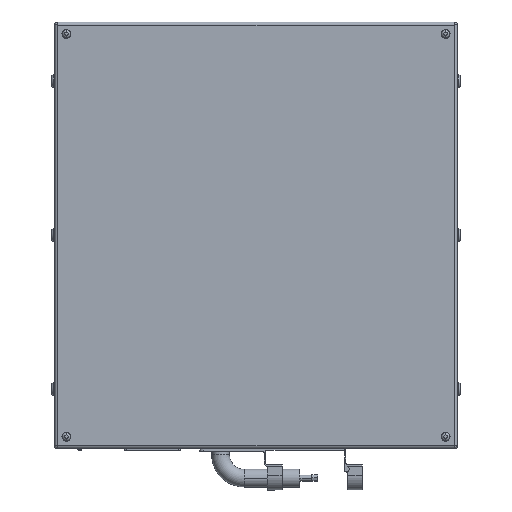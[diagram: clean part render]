
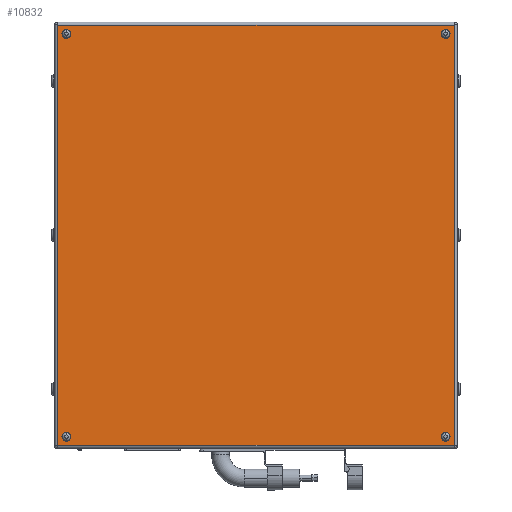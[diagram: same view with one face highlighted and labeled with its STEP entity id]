
A CAD part, front view. The second image highlights one B-rep face of the part: STEP entity #10832.
In plain terms, the highlighted planar face has unit normal (0, -1, 0).
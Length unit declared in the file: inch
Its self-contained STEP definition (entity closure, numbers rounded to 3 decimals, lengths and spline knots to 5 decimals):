
#578 = DIRECTION ( 'NONE',  ( 0., -1., 0. ) ) ;
#889 = LINE ( 'NONE', #19187, #17421 ) ;
#938 = ORIENTED_EDGE ( 'NONE', *, *, #4876, .F. ) ;
#975 = FACE_OUTER_BOUND ( 'NONE', #7346, .T. ) ;
#1021 = LINE ( 'NONE', #2326, #9220 ) ;
#1076 = DIRECTION ( 'NONE',  ( 0., -1., 0. ) ) ;
#1407 = VERTEX_POINT ( 'NONE', #1926 ) ;
#1594 = AXIS2_PLACEMENT_3D ( 'NONE', #5307, #18898, #11418 ) ;
#1736 = ORIENTED_EDGE ( 'NONE', *, *, #8504, .F. ) ;
#1926 = CARTESIAN_POINT ( 'NONE',  ( 16., -12., 16.62598 ) ) ;
#2040 = CARTESIAN_POINT ( 'NONE',  ( -16., -12., -17.37402 ) ) ;
#2320 = CARTESIAN_POINT ( 'NONE',  ( -16., -12., 16.62598 ) ) ;
#2324 = EDGE_LOOP ( 'NONE', ( #1736, #6784 ) ) ;
#2326 = CARTESIAN_POINT ( 'NONE',  ( 16.734, -12., 17.8 ) ) ;
#2372 = CARTESIAN_POINT ( 'NONE',  ( -16.8, -12., 17.734 ) ) ;
#2635 = AXIS2_PLACEMENT_3D ( 'NONE', #12143, #578, #5102 ) ;
#3092 = AXIS2_PLACEMENT_3D ( 'NONE', #7854, #18037, #4739 ) ;
#3114 = VECTOR ( 'NONE', #19267, 39.37008 ) ;
#3347 = DIRECTION ( 'NONE',  ( 0., -1., 0. ) ) ;
#3813 = DIRECTION ( 'NONE',  ( 0., 0., -1. ) ) ;
#3994 = DIRECTION ( 'NONE',  ( 0., 0., -1. ) ) ;
#4005 = FACE_BOUND ( 'NONE', #7664, .T. ) ;
#4178 = CARTESIAN_POINT ( 'NONE',  ( -16.734, -12., -17.734 ) ) ;
#4564 = EDGE_CURVE ( 'NONE', #1407, #6654, #11932, .T. ) ;
#4739 = DIRECTION ( 'NONE',  ( 0., 0., -1. ) ) ;
#4820 = AXIS2_PLACEMENT_3D ( 'NONE', #12789, #3347, #9566 ) ;
#4870 = VERTEX_POINT ( 'NONE', #8133 ) ;
#4876 = EDGE_CURVE ( 'NONE', #5358, #11807, #5519, .T. ) ;
#5083 = EDGE_CURVE ( 'NONE', #4870, #9976, #8424, .T. ) ;
#5102 = DIRECTION ( 'NONE',  ( 0., 0., -1. ) ) ;
#5146 = CARTESIAN_POINT ( 'NONE',  ( 16., -12., 17. ) ) ;
#5307 = CARTESIAN_POINT ( 'NONE',  ( -16., -12., -17. ) ) ;
#5358 = VERTEX_POINT ( 'NONE', #18376 ) ;
#5495 = DIRECTION ( 'NONE',  ( 0., -1., 0. ) ) ;
#5519 = CIRCLE ( 'NONE', #9019, 0.37402 ) ;
#5710 = FACE_BOUND ( 'NONE', #2324, .T. ) ;
#5770 = CARTESIAN_POINT ( 'NONE',  ( 16.734, -12., -17.734 ) ) ;
#6407 = CARTESIAN_POINT ( 'NONE',  ( 16., -12., 17.37402 ) ) ;
#6521 = EDGE_CURVE ( 'NONE', #11072, #7117, #11941, .T. ) ;
#6549 = DIRECTION ( 'NONE',  ( 0., -1., 0. ) ) ;
#6583 = VERTEX_POINT ( 'NONE', #15537 ) ;
#6654 = VERTEX_POINT ( 'NONE', #6407 ) ;
#6784 = ORIENTED_EDGE ( 'NONE', *, *, #4564, .F. ) ;
#6958 = CIRCLE ( 'NONE', #3092, 0.37402 ) ;
#7117 = VERTEX_POINT ( 'NONE', #5770 ) ;
#7129 = FACE_BOUND ( 'NONE', #19579, .T. ) ;
#7221 = CARTESIAN_POINT ( 'NONE',  ( 0., -12., 0. ) ) ;
#7346 = EDGE_LOOP ( 'NONE', ( #7736, #12376, #15720, #14556 ) ) ;
#7664 = EDGE_LOOP ( 'NONE', ( #11099, #9692 ) ) ;
#7736 = ORIENTED_EDGE ( 'NONE', *, *, #11421, .T. ) ;
#7854 = CARTESIAN_POINT ( 'NONE',  ( -16., -12., -17. ) ) ;
#7915 = CARTESIAN_POINT ( 'NONE',  ( 16.734, -12., 17.734 ) ) ;
#8100 = CARTESIAN_POINT ( 'NONE',  ( -16.734, -12., 17.734 ) ) ;
#8133 = CARTESIAN_POINT ( 'NONE',  ( 16., -12., -17.37402 ) ) ;
#8404 = CARTESIAN_POINT ( 'NONE',  ( 16., -12., 17. ) ) ;
#8415 = FACE_BOUND ( 'NONE', #18157, .T. ) ;
#8424 = CIRCLE ( 'NONE', #2635, 0.37402 ) ;
#8504 = EDGE_CURVE ( 'NONE', #6654, #1407, #19659, .T. ) ;
#8567 = CIRCLE ( 'NONE', #17908, 0.37402 ) ;
#9019 = AXIS2_PLACEMENT_3D ( 'NONE', #12561, #6549, #11024 ) ;
#9220 = VECTOR ( 'NONE', #11349, 39.37008 ) ;
#9566 = DIRECTION ( 'NONE',  ( 0., 0., -1. ) ) ;
#9644 = DIRECTION ( 'NONE',  ( 0., -1., 0. ) ) ;
#9692 = ORIENTED_EDGE ( 'NONE', *, *, #19074, .F. ) ;
#9950 = EDGE_CURVE ( 'NONE', #9976, #4870, #8567, .T. ) ;
#9976 = VERTEX_POINT ( 'NONE', #12009 ) ;
#10320 = VECTOR ( 'NONE', #14748, 39.37008 ) ;
#10667 = EDGE_CURVE ( 'NONE', #6583, #12738, #6958, .T. ) ;
#10832 = ADVANCED_FACE ( 'NONE', ( #5710, #7129, #8415, #4005, #975 ), #14553, .T. ) ;
#10946 = AXIS2_PLACEMENT_3D ( 'NONE', #5146, #9644, #11346 ) ;
#11024 = DIRECTION ( 'NONE',  ( 0., 0., -1. ) ) ;
#11072 = VERTEX_POINT ( 'NONE', #4178 ) ;
#11099 = ORIENTED_EDGE ( 'NONE', *, *, #10667, .F. ) ;
#11166 = ORIENTED_EDGE ( 'NONE', *, *, #9950, .F. ) ;
#11346 = DIRECTION ( 'NONE',  ( 0., 0., -1. ) ) ;
#11349 = DIRECTION ( 'NONE',  ( 0., 0., 1. ) ) ;
#11418 = DIRECTION ( 'NONE',  ( 0., 0., -1. ) ) ;
#11421 = EDGE_CURVE ( 'NONE', #7117, #14538, #1021, .T. ) ;
#11707 = DIRECTION ( 'NONE',  ( 0., 0., -1. ) ) ;
#11807 = VERTEX_POINT ( 'NONE', #2320 ) ;
#11932 = CIRCLE ( 'NONE', #10946, 0.37402 ) ;
#11941 = LINE ( 'NONE', #18078, #10320 ) ;
#12009 = CARTESIAN_POINT ( 'NONE',  ( 16., -12., -16.62598 ) ) ;
#12143 = CARTESIAN_POINT ( 'NONE',  ( 16., -12., -17. ) ) ;
#12376 = ORIENTED_EDGE ( 'NONE', *, *, #13291, .T. ) ;
#12561 = CARTESIAN_POINT ( 'NONE',  ( -16., -12., 17. ) ) ;
#12738 = VERTEX_POINT ( 'NONE', #2040 ) ;
#12789 = CARTESIAN_POINT ( 'NONE',  ( -16., -12., 17. ) ) ;
#13234 = DIRECTION ( 'NONE',  ( 0., 0., -1. ) ) ;
#13291 = EDGE_CURVE ( 'NONE', #14538, #16370, #16133, .T. ) ;
#13470 = CIRCLE ( 'NONE', #4820, 0.37402 ) ;
#13555 = AXIS2_PLACEMENT_3D ( 'NONE', #8404, #18983, #3994 ) ;
#14340 = CARTESIAN_POINT ( 'NONE',  ( 16., -12., -17. ) ) ;
#14411 = EDGE_CURVE ( 'NONE', #16370, #11072, #889, .T. ) ;
#14538 = VERTEX_POINT ( 'NONE', #7915 ) ;
#14553 = PLANE ( 'NONE',  #14661 ) ;
#14556 = ORIENTED_EDGE ( 'NONE', *, *, #6521, .T. ) ;
#14661 = AXIS2_PLACEMENT_3D ( 'NONE', #7221, #1076, #3813 ) ;
#14748 = DIRECTION ( 'NONE',  ( 1., 0., 0. ) ) ;
#15537 = CARTESIAN_POINT ( 'NONE',  ( -16., -12., -16.62598 ) ) ;
#15720 = ORIENTED_EDGE ( 'NONE', *, *, #14411, .T. ) ;
#16133 = LINE ( 'NONE', #2372, #3114 ) ;
#16317 = CIRCLE ( 'NONE', #1594, 0.37402 ) ;
#16370 = VERTEX_POINT ( 'NONE', #8100 ) ;
#17134 = ORIENTED_EDGE ( 'NONE', *, *, #19437, .F. ) ;
#17421 = VECTOR ( 'NONE', #13234, 39.37008 ) ;
#17422 = ORIENTED_EDGE ( 'NONE', *, *, #5083, .F. ) ;
#17908 = AXIS2_PLACEMENT_3D ( 'NONE', #14340, #5495, #11707 ) ;
#18037 = DIRECTION ( 'NONE',  ( 0., -1., 0. ) ) ;
#18078 = CARTESIAN_POINT ( 'NONE',  ( 16.8, -12., -17.734 ) ) ;
#18157 = EDGE_LOOP ( 'NONE', ( #11166, #17422 ) ) ;
#18376 = CARTESIAN_POINT ( 'NONE',  ( -16., -12., 17.37402 ) ) ;
#18898 = DIRECTION ( 'NONE',  ( 0., -1., 0. ) ) ;
#18983 = DIRECTION ( 'NONE',  ( 0., -1., 0. ) ) ;
#19074 = EDGE_CURVE ( 'NONE', #12738, #6583, #16317, .T. ) ;
#19187 = CARTESIAN_POINT ( 'NONE',  ( -16.734, -12., -17.8 ) ) ;
#19267 = DIRECTION ( 'NONE',  ( -1., 0., 0. ) ) ;
#19437 = EDGE_CURVE ( 'NONE', #11807, #5358, #13470, .T. ) ;
#19579 = EDGE_LOOP ( 'NONE', ( #938, #17134 ) ) ;
#19659 = CIRCLE ( 'NONE', #13555, 0.37402 ) ;
